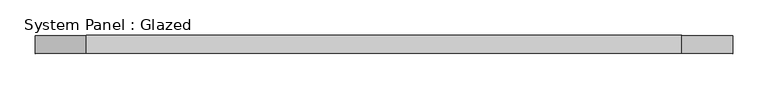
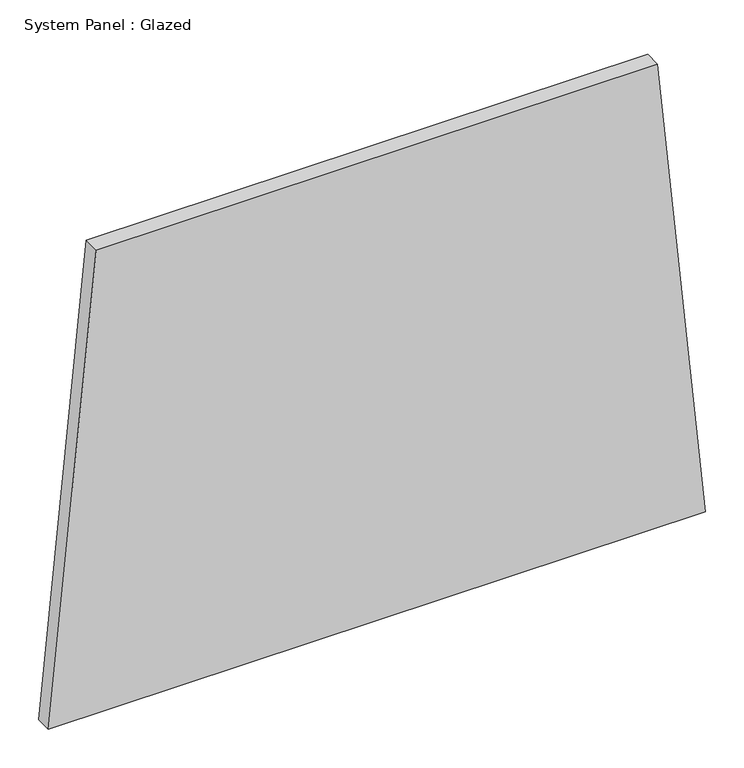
"""IFC4 building model written with IfcOpenShell, lengths in millimetres: plate geometry, System Panel : Glazed."""

import ifcopenshell
import ifcopenshell.guid

model = None  # the IFC model being written
_history = None  # IfcOwnerHistory: only IFC2X3 demands one
_inside = {}  # id of a spatial element -> (the spatial element, [elements in it])
_under = {}  # id of a project, library or spatial element -> (it, [spatial elements below it])
_declared = {}  # id of a project -> (the project, [libraries it declares])
_typed = {}  # id of a type object -> (the type object, [elements of that type])
_made_of = {}  # id of a material, layer set ... -> (it, [elements and type objects made of it])


def new_model(schema):
    """Start an empty IFC model of exactly this schema.

    Asked for "IFC4X3", IfcOpenShell would pick the latest addendum, in which some entities
    have other attributes; the version numbers below select the first issue.
    IFC2X3 requires an IfcOwnerHistory on every rooted entity: one is made here for all.
    """
    global model, _history
    if schema == "IFC4X3":
        model = ifcopenshell.file(schema_version=(4, 3, 0, 0))
    else:
        model = ifcopenshell.file(schema=schema)
    _inside.clear()
    _under.clear()
    _declared.clear()
    _typed.clear()
    _made_of.clear()
    _history = None
    if model.schema == "IFC2X3":
        org = make("IfcOrganization", Name="unknown")
        user = make(
            "IfcPersonAndOrganization",
            ThePerson=make("IfcPerson", FamilyName="unknown"),
            TheOrganization=org,
        )
        app = make(
            "IfcApplication",
            ApplicationDeveloper=org,
            Version="unknown",
            ApplicationFullName="unknown",
            ApplicationIdentifier="unknown",
        )
        _history = make(
            "IfcOwnerHistory",
            OwningUser=user,
            OwningApplication=app,
            ChangeAction="ADDED",
            CreationDate=0,
        )
    return model


def make(cls, **values):
    """One entity of the class cls with the attributes given. An attribute that is None is left unset."""
    return model.create_entity(
        cls, **{name: value for name, value in values.items() if value is not None}
    )


def rooted(cls, **values):
    """An entity with a GlobalId (a new one), such as an element, a storey or a relation."""
    return make(cls, GlobalId=ifcopenshell.guid.new(), OwnerHistory=_history, **values)


def si_unit(unit_type, name, prefix=None):
    """IfcSIUnit, for example si_unit("LENGTHUNIT", "METRE", prefix="MILLI")."""
    return make("IfcSIUnit", UnitType=unit_type, Prefix=prefix, Name=name)


def assignment(units):
    """IfcUnitAssignment: the units of a project."""
    return None if units is None else make("IfcUnitAssignment", Units=units)


def point(xyz):
    """IfcCartesianPoint."""
    return None if xyz is None else make("IfcCartesianPoint", Coordinates=xyz)


def direction(xyz):
    """IfcDirection."""
    return None if xyz is None else make("IfcDirection", DirectionRatios=xyz)


def frame(location, z_axis=None, x_axis=None):
    """IfcAxis2Placement3D, a coordinate frame: its origin and axes. An axis left out is left unset."""
    return make(
        "IfcAxis2Placement3D",
        Location=point(location),
        Axis=direction(z_axis),
        RefDirection=direction(x_axis),
    )


def origin():
    """The frame at (0, 0, 0) with its axes left unset."""
    return frame((0.0, 0.0, 0.0))


def place(relative_to, where):
    """IfcLocalPlacement: puts the frame where relative to a parent placement (None: the world)."""
    return make(
        "IfcLocalPlacement", PlacementRelTo=relative_to, RelativePlacement=where
    )


def context(
    kind, dimensions, precision=None, world=None, true_north=None, identifier=None
):
    """IfcGeometricRepresentationContext, for example the 3D "Model" context."""
    return make(
        "IfcGeometricRepresentationContext",
        ContextIdentifier=identifier,
        ContextType=kind,
        CoordinateSpaceDimension=dimensions,
        Precision=precision,
        WorldCoordinateSystem=world,
        TrueNorth=true_north,
    )


def project(units=None, contexts=None):
    """IfcProject with its units and contexts."""
    return rooted(
        "IfcProject",
        Name="project",
        RepresentationContexts=contexts,
        UnitsInContext=assignment(units),
    )


def spatial(cls, under=None, at=None, **own):
    """A site, building, storey or space (cls), placed at a placement, below another one or the project."""
    s = rooted(cls, ObjectPlacement=at, **own)
    if under is not None:
        _under.setdefault(under.id(), (under, []))[1].append(s)
    return s


def polyline(points):
    """IfcPolyline through the points."""
    return make("IfcPolyline", Points=[point(p) for p in points])


def outline(outer, holes=None, kind="AREA"):
    """IfcArbitraryClosedProfileDef: a profile drawn as a closed curve; with holes, ...WithVoids."""
    if holes is None:
        return make("IfcArbitraryClosedProfileDef", ProfileType=kind, OuterCurve=outer)
    return make(
        "IfcArbitraryProfileDefWithVoids",
        ProfileType=kind,
        OuterCurve=outer,
        InnerCurves=holes,
    )


def extrude(swept, where, along, depth):
    """IfcExtrudedAreaSolid: the profile swept, set in the frame where, extruded along a direction by depth."""
    return make(
        "IfcExtrudedAreaSolid",
        SweptArea=swept,
        Position=where,
        ExtrudedDirection=direction(along),
        Depth=depth,
    )


def shape(context_of_items, identifier, shape_type, items):
    """IfcShapeRepresentation: the items that make up one representation, for example the "Body"."""
    return make(
        "IfcShapeRepresentation",
        ContextOfItems=context_of_items,
        RepresentationIdentifier=identifier,
        RepresentationType=shape_type,
        Items=items,
    )


def source(mapping_origin, context_of_items, identifier, shape_type, items):
    """IfcRepresentationMap: a shape defined once, which mapped items show again and again."""
    return make(
        "IfcRepresentationMap",
        MappingOrigin=mapping_origin,
        MappedRepresentation=shape(context_of_items, identifier, shape_type, items),
    )


def transform(
    local_origin,
    x_axis=None,
    y_axis=None,
    z_axis=None,
    scale=None,
    scale2=None,
    scale3=None,
    uniform=True,
):
    """IfcCartesianTransformationOperator3D, or its non-uniform kind. x_axis, y_axis, z_axis: its Axis1, 2, 3."""
    if uniform:
        return make(
            "IfcCartesianTransformationOperator3D",
            Axis1=direction(x_axis),
            Axis2=direction(y_axis),
            LocalOrigin=point(local_origin),
            Scale=scale,
            Axis3=direction(z_axis),
        )
    return make(
        "IfcCartesianTransformationOperator3DnonUniform",
        Axis1=direction(x_axis),
        Axis2=direction(y_axis),
        LocalOrigin=point(local_origin),
        Scale=scale,
        Axis3=direction(z_axis),
        Scale2=scale2,
        Scale3=scale3,
    )


def mapped(mapping_source, mapping_target):
    """IfcMappedItem: shows the shape of a source again, moved by a transform."""
    return make(
        "IfcMappedItem", MappingSource=mapping_source, MappingTarget=mapping_target
    )


def made_of(thing, what):
    """Note that an element or type object is made of a material, layer set ...; save() writes the relation."""
    if what is not None:
        _made_of.setdefault(what.id(), (what, []))[1].append(thing)
    return thing


def element(
    cls,
    number,
    at=None,
    inside=None,
    cuts=None,
    type_object=None,
    material=None,
    context=None,
    identifier="Body",
    shape_type=None,
    held_by="IfcProductDefinitionShape",
    body=None,
    shapes=None,
    **own,
):
    """One element of the class cls, such as IfcWall. Its Tag is "e" and its number.

    at: its placement. inside: the storey or other place that contains it. cuts: it is an
    opening in that element (IfcRelVoidsElement). A single representation is given by context,
    identifier, shape_type and body (its items); several are given by shapes. held_by: the class
    of the entity that holds the representations. save() writes the other relations.
    """
    e = rooted(cls, Tag="e%d" % number, ObjectPlacement=at, **own)
    if body is not None:
        shapes = [shape(context, identifier, shape_type, body)]
    if shapes is not None:
        e.Representation = make(held_by, Representations=shapes)
    if inside is not None:
        _inside.setdefault(inside.id(), (inside, []))[1].append(e)
    if cuts is not None:
        rooted(
            "IfcRelVoidsElement", RelatingBuildingElement=cuts, RelatedOpeningElement=e
        )
    if type_object is not None:
        _typed.setdefault(type_object.id(), (type_object, []))[1].append(e)
    return made_of(e, material)


def aggregate(whole, parts):
    """IfcRelAggregates: a whole, such as a stair, and the parts it consists of."""
    return rooted("IfcRelAggregates", RelatingObject=whole, RelatedObjects=parts)


def save(model, path):
    """Write the relations noted so far, then the file.

    IfcRelAggregates (storeys below a building ...), IfcRelContainedInSpatialStructure (elements
    in a storey), IfcRelDefinesByType, IfcRelAssociatesMaterial and IfcRelDeclares: one each for
    every whole, place, type object, material and project.
    """
    for whole, parts in _under.values():
        aggregate(whole, parts)
    for where, things in _inside.values():
        rooted(
            "IfcRelContainedInSpatialStructure",
            RelatedElements=things,
            RelatingStructure=where,
        )
    for kind, things in _typed.values():
        rooted("IfcRelDefinesByType", RelatedObjects=things, RelatingType=kind)
    for what, things in _made_of.values():
        rooted("IfcRelAssociatesMaterial", RelatedObjects=things, RelatingMaterial=what)
    for by, libraries in _declared.values():
        rooted("IfcRelDeclares", RelatingContext=by, RelatedDefinitions=libraries)
    model.write(path)


def system_panel_glazed_8f62df24(model_context):
    return source(origin(), model_context, "Body", "SweptSolid", [
        extrude(outline(polyline([(0.0, -491.8972707), (0.0, 491.8972707), (732.9818329, 420.2126588), (732.9818329, -420.2126588), (0.0, -491.8972707)])), frame((0.0, 19.05, 0.0), z_axis=(0.0, 1.0, 0.0), x_axis=(0.0, 0.0, 1.0)), (0.0, 0.0, 1.0), 25.4),
    ])


if __name__ == "__main__":
    model = new_model("IFC4")
    model_context = context("Model", 3, world=origin())
    ifc_project = project(units=[si_unit("LENGTHUNIT", "METRE", prefix="MILLI")], contexts=[model_context])
    site = spatial("IfcSite", under=ifc_project)
    building = spatial("IfcBuilding", under=site)
    placement = place(None, origin())
    system_panel_glazed_shape = system_panel_glazed_8f62df24(model_context)
    element("IfcPlate", 1, ObjectType="System Panel : Glazed", at=placement, inside=building, context=model_context, shape_type="MappedRepresentation", body=[
        mapped(system_panel_glazed_shape, transform((0.0, 0.0, 0.0), x_axis=(1.0, 0.0, 0.0), y_axis=(0.0, 1.0, 0.0), z_axis=(0.0, 0.0, 1.0))),
    ])
    save(model, "model.ifc")
